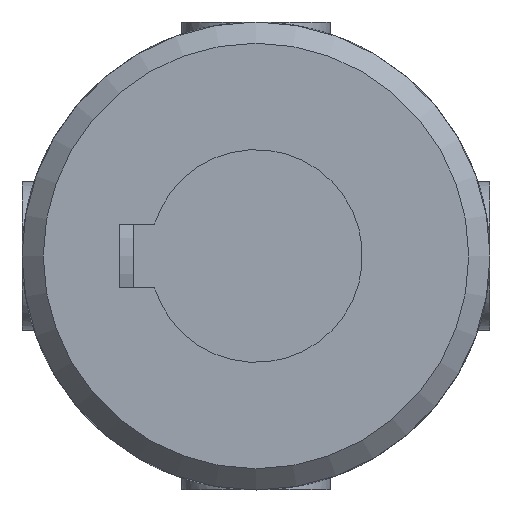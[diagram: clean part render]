
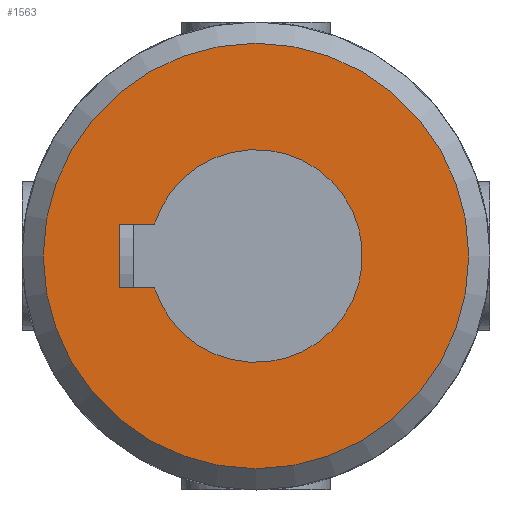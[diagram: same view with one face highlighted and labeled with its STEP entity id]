
A CAD part, front view. The second image highlights one B-rep face of the part: STEP entity #1563.
In plain terms, the highlighted planar face has unit normal (0, -1, 0).
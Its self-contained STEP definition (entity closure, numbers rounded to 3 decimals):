
#124=LINE('',#3013,#181);
#128=LINE('',#3040,#185);
#130=LINE('',#3048,#187);
#181=VECTOR('',#2052,1.63);
#185=VECTOR('',#2064,3.);
#187=VECTOR('',#2068,1.63);
#288=FACE_BOUND('',#530,.T.);
#400=FACE_OUTER_BOUND('',#529,.T.);
#529=EDGE_LOOP('',(#1334));
#530=EDGE_LOOP('',(#1335,#1336,#1337,#1338));
#610=CIRCLE('',#1713,5.);
#616=CIRCLE('',#1724,10.);
#736=VERTEX_POINT('',#3010);
#737=VERTEX_POINT('',#3012);
#740=VERTEX_POINT('',#3022);
#742=VERTEX_POINT('',#3038);
#751=VERTEX_POINT('',#3137);
#929=EDGE_CURVE('',#737,#736,#124,.T.);
#933=EDGE_CURVE('',#740,#737,#610,.T.);
#937=EDGE_CURVE('',#736,#742,#128,.T.);
#940=EDGE_CURVE('',#742,#740,#130,.T.);
#950=EDGE_CURVE('',#751,#751,#616,.T.);
#1334=ORIENTED_EDGE('',*,*,#950,.F.);
#1335=ORIENTED_EDGE('',*,*,#929,.T.);
#1336=ORIENTED_EDGE('',*,*,#937,.T.);
#1337=ORIENTED_EDGE('',*,*,#940,.T.);
#1338=ORIENTED_EDGE('',*,*,#933,.T.);
#1476=PLANE('',#1726);
#1563=ADVANCED_FACE('',(#400,#288),#1476,.F.);
#1713=AXIS2_PLACEMENT_3D('',#3023,#2058,#2059);
#1724=AXIS2_PLACEMENT_3D('',#3138,#2085,#2086);
#1726=AXIS2_PLACEMENT_3D('',#3314,#2093,#2094);
#2052=DIRECTION('',(0.,0.,-1.));
#2058=DIRECTION('center_axis',(0.,1.,0.));
#2059=DIRECTION('ref_axis',(0.3,0.,-0.954));
#2064=DIRECTION('',(-1.,0.,0.));
#2068=DIRECTION('',(0.,0.,1.));
#2085=DIRECTION('center_axis',(0.,1.,0.));
#2086=DIRECTION('ref_axis',(1.,0.,0.));
#2093=DIRECTION('center_axis',(0.,1.,0.));
#2094=DIRECTION('ref_axis',(0.,0.,1.));
#3010=CARTESIAN_POINT('',(1.5,-29.5,-6.4));
#3012=CARTESIAN_POINT('',(1.5,-29.5,-4.77));
#3013=CARTESIAN_POINT('',(1.5,-29.5,-2.385));
#3022=CARTESIAN_POINT('',(-1.5,-29.5,-4.77));
#3023=CARTESIAN_POINT('Origin',(0.,-29.5,0.));
#3038=CARTESIAN_POINT('',(-1.5,-29.5,-6.4));
#3040=CARTESIAN_POINT('',(0.75,-29.5,-6.4));
#3048=CARTESIAN_POINT('',(-1.5,-29.5,-3.2));
#3137=CARTESIAN_POINT('',(-10.,-29.5,0.));
#3138=CARTESIAN_POINT('Origin',(0.,-29.5,0.));
#3314=CARTESIAN_POINT('Origin',(0.,-29.5,0.));
